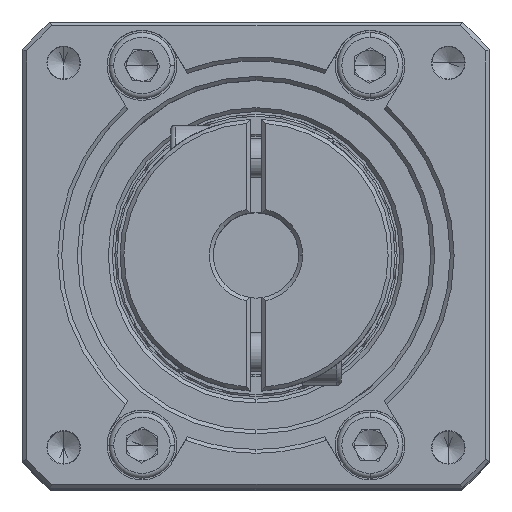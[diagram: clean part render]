
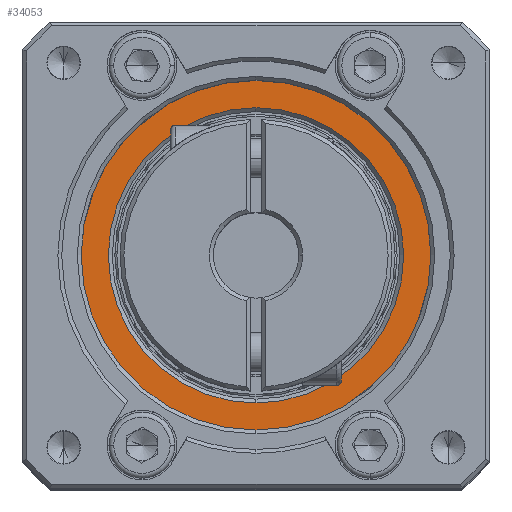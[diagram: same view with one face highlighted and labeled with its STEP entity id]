
A CAD part, top view. The second image highlights one B-rep face of the part: STEP entity #34053.
In plain terms, the highlighted planar face has unit normal (0, 0, 1).
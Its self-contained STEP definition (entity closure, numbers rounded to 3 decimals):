
#2658 = EDGE_CURVE ( 'NONE', #11504, #115222, #52723, .T. ) ;
#9874 = ORIENTED_EDGE ( 'NONE', *, *, #50361, .T. ) ;
#11504 = VERTEX_POINT ( 'NONE', #59975 ) ;
#19608 = CIRCLE ( 'NONE', #22078, 19. ) ;
#21397 = CARTESIAN_POINT ( 'NONE',  ( -92.506, 76.383, 14.297 ) ) ;
#22078 = AXIS2_PLACEMENT_3D ( 'NONE', #40265, #102877, #49271 ) ;
#23702 = EDGE_LOOP ( 'NONE', ( #97342, #50262 ) ) ;
#27379 = DIRECTION ( 'NONE',  ( 0., 0., -1. ) ) ;
#30846 = DIRECTION ( 'NONE',  ( 0., 0., 1. ) ) ;
#34053 = ADVANCED_FACE ( 'NONE', ( #40456, #85267 ), #62527, .T. ) ;
#35502 = CARTESIAN_POINT ( 'NONE',  ( -92.506, 53.883, 14.297 ) ) ;
#38448 = VERTEX_POINT ( 'NONE', #43011 ) ;
#40265 = CARTESIAN_POINT ( 'NONE',  ( -92.506, 53.883, 14.297 ) ) ;
#40456 = FACE_BOUND ( 'NONE', #73750, .T. ) ;
#41772 = CIRCLE ( 'NONE', #49506, 22.5 ) ;
#43011 = CARTESIAN_POINT ( 'NONE',  ( -92.506, 34.883, 14.297 ) ) ;
#44548 = DIRECTION ( 'NONE',  ( 0., -1., 0. ) ) ;
#44898 = DIRECTION ( 'NONE',  ( 0., 0., 1. ) ) ;
#47494 = EDGE_CURVE ( 'NONE', #115222, #11504, #41772, .T. ) ;
#48770 = ORIENTED_EDGE ( 'NONE', *, *, #60211, .T. ) ;
#49271 = DIRECTION ( 'NONE',  ( 0., -1., 0. ) ) ;
#49506 = AXIS2_PLACEMENT_3D ( 'NONE', #84538, #30846, #93522 ) ;
#49744 = AXIS2_PLACEMENT_3D ( 'NONE', #35502, #98165, #44548 ) ;
#50172 = CIRCLE ( 'NONE', #57066, 19. ) ;
#50262 = ORIENTED_EDGE ( 'NONE', *, *, #47494, .T. ) ;
#50361 = EDGE_CURVE ( 'NONE', #38448, #72625, #19608, .T. ) ;
#52723 = CIRCLE ( 'NONE', #49744, 22.5 ) ;
#54186 = CARTESIAN_POINT ( 'NONE',  ( -92.506, 72.883, 14.297 ) ) ;
#57066 = AXIS2_PLACEMENT_3D ( 'NONE', #81057, #27379, #90064 ) ;
#59975 = CARTESIAN_POINT ( 'NONE',  ( -92.506, 31.383, 14.297 ) ) ;
#60211 = EDGE_CURVE ( 'NONE', #72625, #38448, #50172, .T. ) ;
#62527 = PLANE ( 'NONE',  #97618 ) ;
#72625 = VERTEX_POINT ( 'NONE', #54186 ) ;
#73750 = EDGE_LOOP ( 'NONE', ( #9874, #48770 ) ) ;
#81057 = CARTESIAN_POINT ( 'NONE',  ( -92.506, 53.883, 14.297 ) ) ;
#84538 = CARTESIAN_POINT ( 'NONE',  ( -92.506, 53.883, 14.297 ) ) ;
#85267 = FACE_OUTER_BOUND ( 'NONE', #23702, .T. ) ;
#90064 = DIRECTION ( 'NONE',  ( 0., -1., 0. ) ) ;
#93522 = DIRECTION ( 'NONE',  ( 0., -1., 0. ) ) ;
#97342 = ORIENTED_EDGE ( 'NONE', *, *, #2658, .T. ) ;
#97618 = AXIS2_PLACEMENT_3D ( 'NONE', #98524, #44898, #107542 ) ;
#98165 = DIRECTION ( 'NONE',  ( 0., 0., 1. ) ) ;
#98524 = CARTESIAN_POINT ( 'NONE',  ( -92.506, 53.883, 14.297 ) ) ;
#102877 = DIRECTION ( 'NONE',  ( 0., 0., -1. ) ) ;
#107542 = DIRECTION ( 'NONE',  ( 0., -1., 0. ) ) ;
#115222 = VERTEX_POINT ( 'NONE', #21397 ) ;
